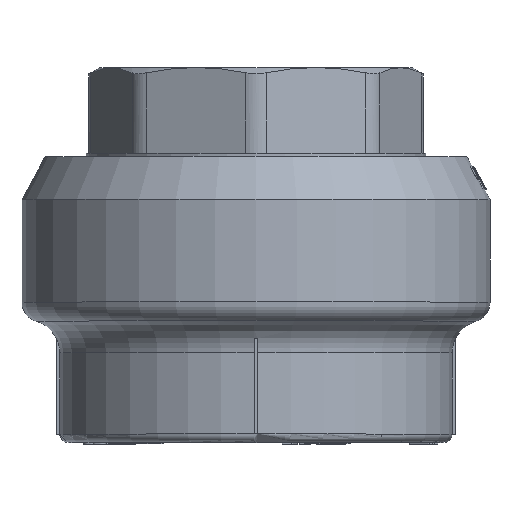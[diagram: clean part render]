
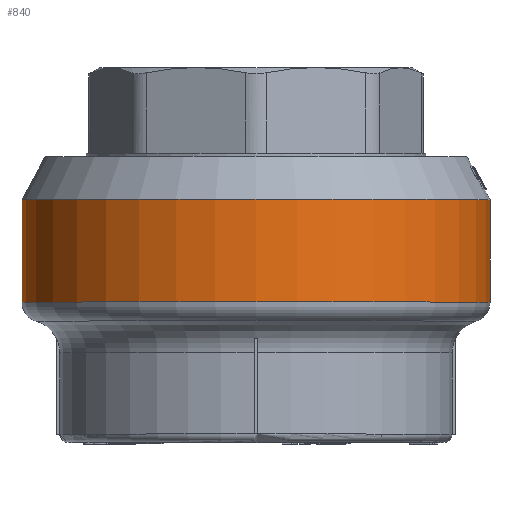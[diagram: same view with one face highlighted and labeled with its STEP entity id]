
A CAD part, top view. The second image highlights one B-rep face of the part: STEP entity #840.
In plain terms, the highlighted cylindrical face has radius 71 mm (diameter 142 mm), a full revolution.
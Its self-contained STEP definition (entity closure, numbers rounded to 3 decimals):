
#840=ADVANCED_FACE('',(#5031,#5033),#5035,.T.);
#5031=FACE_OUTER_BOUND('',#5032,.T.);
#5032=EDGE_LOOP('',(#11423));
#5033=FACE_OUTER_BOUND('',#5034,.T.);
#5034=EDGE_LOOP('',(#11424));
#5035=CYLINDRICAL_SURFACE('',#5036,71.);
#5036=AXIS2_PLACEMENT_3D('',#5037,#5038,#5039);
#5037=CARTESIAN_POINT('',(0.,37.2,0.));
#5038=DIRECTION('',(0.,1.,0.));
#5039=DIRECTION('',(-1.,0.,0.));
#11423=ORIENTED_EDGE('',*,*,#14568,.T.);
#11424=ORIENTED_EDGE('',*,*,#14564,.T.);
#14564=EDGE_CURVE('',#17913,#17913,#17914,.T.);
#14568=EDGE_CURVE('',#17919,#17919,#17920,.T.);
#17913=VERTEX_POINT('',#25224);
#17914=CIRCLE('',#25225,71.);
#17919=VERTEX_POINT('',#25240);
#17920=CIRCLE('',#25241,71.);
#25224=CARTESIAN_POINT('',(-71.,42.554,0.));
#25225=AXIS2_PLACEMENT_3D('',#25226,#25227,#25228);
#25226=CARTESIAN_POINT('',(0.,42.554,0.));
#25227=DIRECTION('',(0.,1.,0.));
#25228=DIRECTION('',(-1.,0.,0.));
#25240=CARTESIAN_POINT('',(-71.,73.7,0.));
#25241=AXIS2_PLACEMENT_3D('',#25242,#25243,#25244);
#25242=CARTESIAN_POINT('',(0.,73.7,0.));
#25243=DIRECTION('',(0.,-1.,0.));
#25244=DIRECTION('',(-1.,0.,0.));
